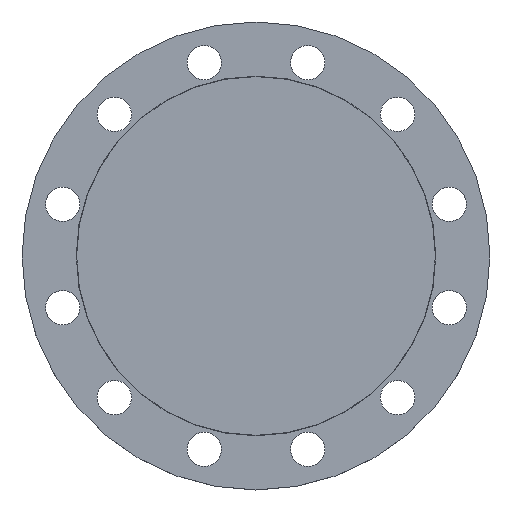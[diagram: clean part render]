
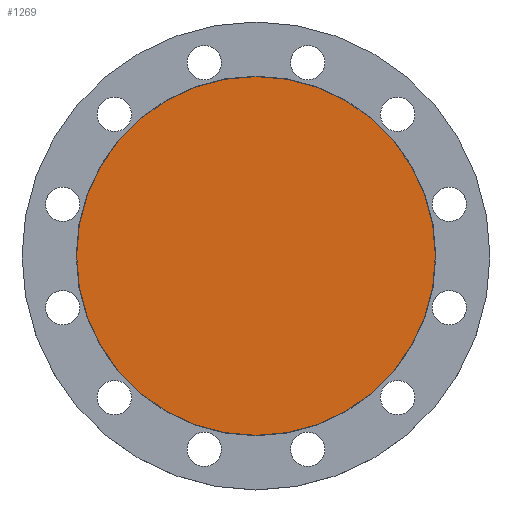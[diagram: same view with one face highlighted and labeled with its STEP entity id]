
A CAD part, top view. The second image highlights one B-rep face of the part: STEP entity #1269.
In plain terms, the highlighted planar face has unit normal (0, 0, 1).
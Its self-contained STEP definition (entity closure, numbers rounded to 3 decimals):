
#7 = AXIS2_PLACEMENT_3D ( 'NONE', #136, #134, #133 ) ;
#101 = CARTESIAN_POINT ( 'NONE',  ( -172.5, 0., 0. ) ) ;
#133 = DIRECTION ( 'NONE',  ( 1., 0., 0. ) ) ;
#134 = DIRECTION ( 'NONE',  ( 0., 0., 1. ) ) ;
#136 = CARTESIAN_POINT ( 'NONE',  ( 0., 0., 0. ) ) ;
#137 = PLANE ( 'NONE',  #7 ) ;
#138 = FACE_OUTER_BOUND ( 'NONE', #1243, .T. ) ;
#212 = AXIS2_PLACEMENT_3D ( 'NONE', #432, #429, #427 ) ;
#214 = CIRCLE ( 'NONE', #212, 172.5 ) ;
#221 = CARTESIAN_POINT ( 'NONE',  ( 172.5, 0., 0. ) ) ;
#427 = DIRECTION ( 'NONE',  ( -1., 0., 0. ) ) ;
#429 = DIRECTION ( 'NONE',  ( 0., 0., -1. ) ) ;
#432 = CARTESIAN_POINT ( 'NONE',  ( 0., 0., 0. ) ) ;
#494 = AXIS2_PLACEMENT_3D ( 'NONE', #577, #575, #572 ) ;
#495 = CIRCLE ( 'NONE', #494, 172.5 ) ;
#572 = DIRECTION ( 'NONE',  ( -1., 0., 0. ) ) ;
#575 = DIRECTION ( 'NONE',  ( 0., 0., -1. ) ) ;
#577 = CARTESIAN_POINT ( 'NONE',  ( 0., 0., 0. ) ) ;
#620 = EDGE_CURVE ( 'NONE', #1305, #1189, #495, .T. ) ;
#900 = EDGE_CURVE ( 'NONE', #1189, #1305, #214, .T. ) ;
#1189 = VERTEX_POINT ( 'NONE', #221 ) ;
#1243 = EDGE_LOOP ( 'NONE', ( #1327, #1328 ) ) ;
#1269 = ADVANCED_FACE ( 'NONE', ( #138 ), #137, .T. ) ;
#1305 = VERTEX_POINT ( 'NONE', #101 ) ;
#1327 = ORIENTED_EDGE ( 'NONE', *, *, #620, .F. ) ;
#1328 = ORIENTED_EDGE ( 'NONE', *, *, #900, .F. ) ;
